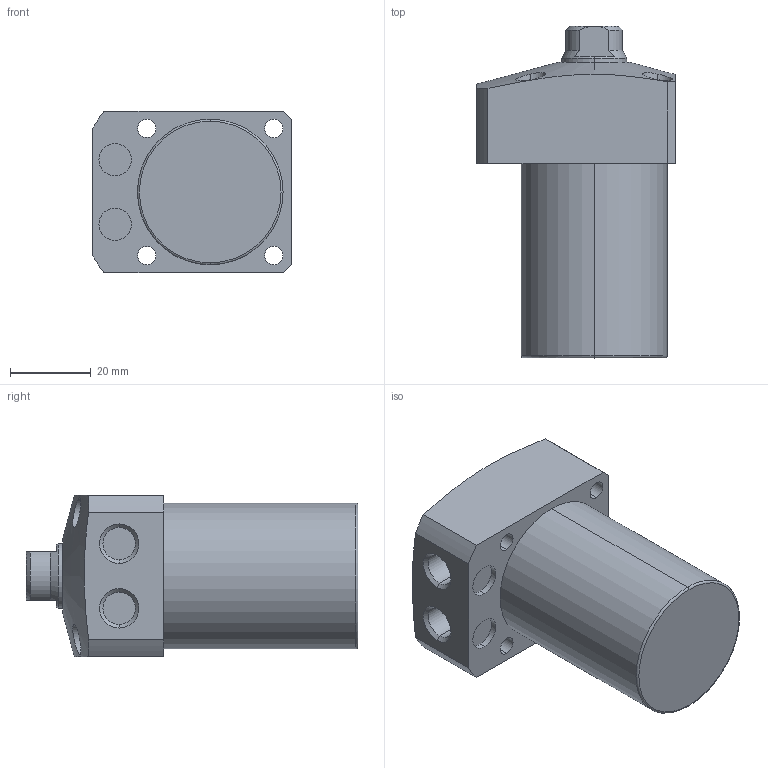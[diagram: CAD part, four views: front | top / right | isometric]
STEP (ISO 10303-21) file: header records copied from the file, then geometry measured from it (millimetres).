
FILE_DESCRIPTION (( 'STEP AP203' ), '1' );
FILE_NAME ('CLL-036CA-040.STEP', '2020-01-03T12:27:33', ( '' ), ( '' ), 'SwSTEP 2.0', 'SolidWorks 2015', '' );
FILE_SCHEMA (( 'CONFIG_CONTROL_DESIGN' ));
Length unit declared in the file: millimetre
Products named in the file (1): CLL-036CA-040
Bounding box: 49 x 82 x 40 mm (x, y, z)
Volume: 90300.5 mm3; surface area: 15604.2 mm2
Topology: 1 solids, 1 shells, 72 faces, 166 edges, 105 vertices
Faces by surface type: cylinder 34, plane 22, cone 14, torus 2
Entity records: 2453 total; most frequent: CARTESIAN_POINT 708, DIRECTION 364, ORIENTED_EDGE 328, EDGE_CURVE 164, AXIS2_PLACEMENT_3D 151, VERTEX_POINT 105, EDGE_LOOP 91, CIRCLE 78
